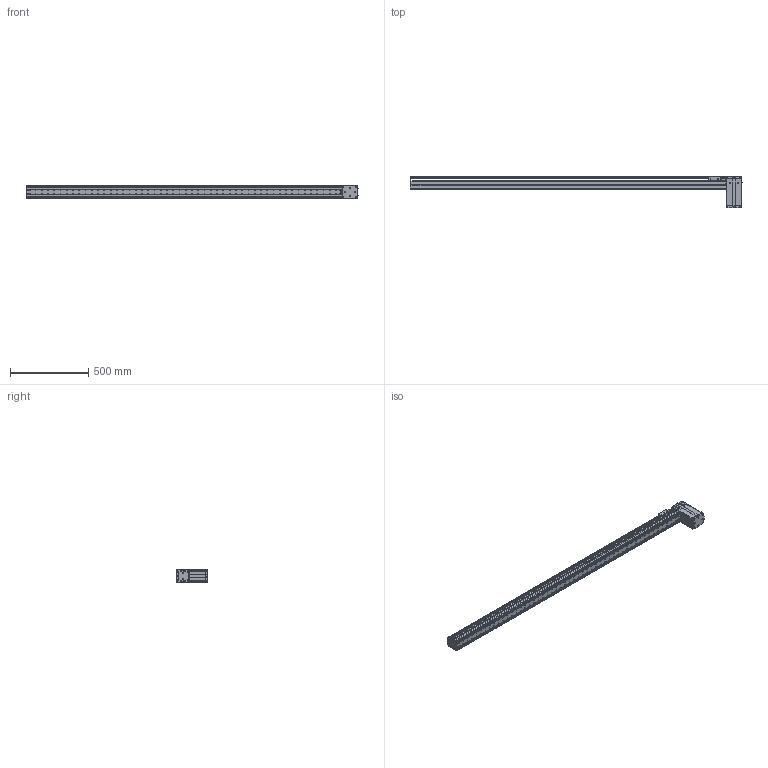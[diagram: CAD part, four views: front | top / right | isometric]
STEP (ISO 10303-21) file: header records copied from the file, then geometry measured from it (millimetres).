
FILE_DESCRIPTION((''),'2;1');
FILE_NAME('BE10_-BU-S_N-J5_IGS_PRT','2017-06-18T',(' '),(''),'PRO/ENGINEER BY PARAMETRIC TECHNOLOGY CORPORATION, 2015030','PRO/ENGINEER BY PARAMETRIC TECHNOLOGY CORPORATION, 2015030','');
FILE_SCHEMA(('CONFIG_CONTROL_DESIGN'));
Products named in the file (1): BE10_-BU-S_N-J5_IGS_PRT
Bounding box: 2120.8 x 202.72 x 78 mm (x, y, z)
Volume: 2708855.2 mm3; surface area: 1932256.9 mm2
Topology: 5 solids, 179 shells, 2322 faces, 6371 edges, 4244 vertices
Faces by surface type: cylinder 1091, plane 1072, cone 103, sphere 28, torus 25, bspline 3
Entity records: 76291 total; most frequent: CARTESIAN_POINT 15813, DIRECTION 12879, ORIENTED_EDGE 11962, EDGE_CURVE 6315, AXIS2_PLACEMENT_3D 4719, VERTEX_POINT 4243, VECTOR 3441, LINE 3441
